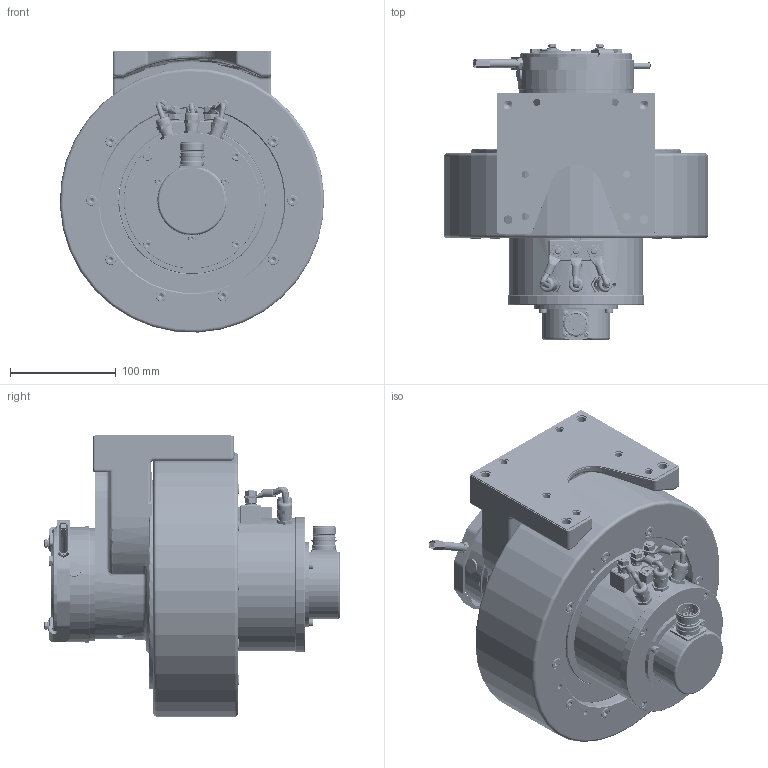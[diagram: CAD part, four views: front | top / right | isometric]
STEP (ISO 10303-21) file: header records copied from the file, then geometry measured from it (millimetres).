
FILE_DESCRIPTION(/* description */ (''),/* implementation_level */ '2;1');
FILE_NAME(/* name */ 'Z:\SITO WEB 2023\Motoruote\Orizzontali NON sterzanti\MR240FR\MR240FR PMAC\MR240FR-BL.stp',/* time_stamp */ '2023-05-22T11:00:27+02:00',/* author */ ('cad3'),/* organization */ (''),/* preprocessor_version */ 'ST-DEVELOPER v18.1',/* originating_system */ 'Autodesk Inventor 2022',/* authorisation */ '');
FILE_SCHEMA (('AUTOMOTIVE_DESIGN { 1 0 10303 214 3 1 1 }'));
Products named in the file (1): MR240FR-BL
Bounding box: 249.73 x 279.4 x 265.87 mm (x, y, z)
Volume: 3499097.1 mm3; surface area: 774199.2 mm2
Topology: 6 solids, 50 shells, 6539 faces, 16980 edges, 10982 vertices
Faces by surface type: plane 4698, cylinder 823, cone 440, bspline 353, torus 206, sphere 19
Full cylindrical faces by diameter (mm): 0.9 x12, 2 x3, 2.5 x1, 2.9 x8, 3.2 x4, 3.242 x14, 4 x18, 4.134 x15, 4.2 x11, 4.3 x9, 4.5 x2, 4.917 x5, 5 x29, 5.2 x21, 5.3 x4, 5.4 x2, 5.5 x10, 6 x26, 6.2 x6, 6.4 x3, 6.5 x13, 6.647 x6, 6.88 x3, 6.917 x3, 7 x14, 7.1 x1, 7.5 x11, 7.8 x1, 8 x5, 8.376 x5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
Entity records: 218193 total; most frequent: CARTESIAN_POINT 51232, ORIENTED_EDGE 33792, DIRECTION 32708, EDGE_CURVE 16896, AXIS2_PLACEMENT_3D 11245, VERTEX_POINT 10981, LINE 10218, VECTOR 10218
